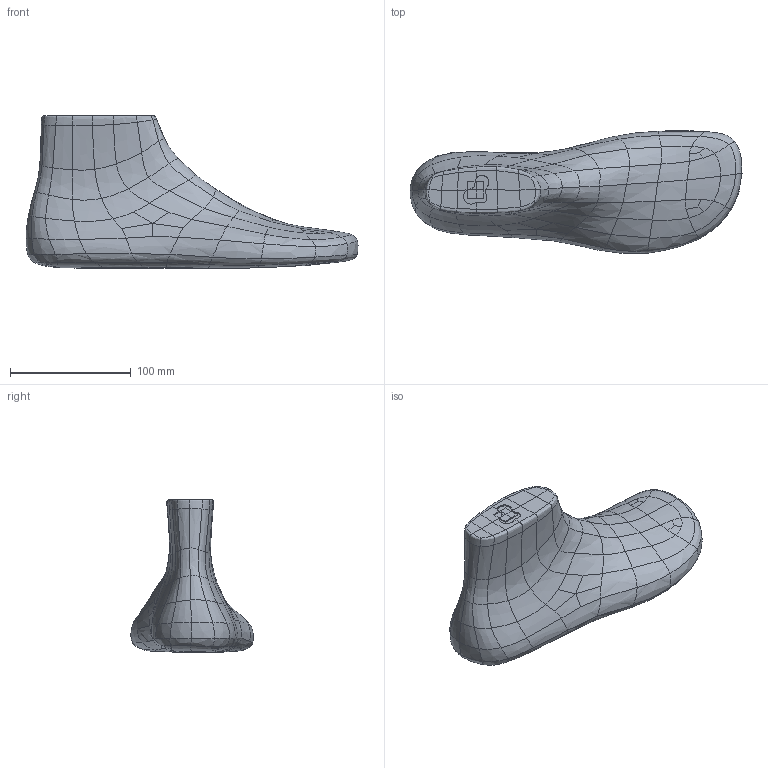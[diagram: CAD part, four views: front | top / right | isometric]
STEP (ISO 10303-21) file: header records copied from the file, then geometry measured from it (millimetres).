
FILE_DESCRIPTION(/* description */ (''),/* implementation_level */ '2;1');
FILE_NAME(License: CC BY-NC-ND 4.0 Statement: This work is licensed under a Creative Commons Attribution-NonCommercial-NoDerivatives 4.0 International License. Link: https://creativecommons.org/licenses/by-nc-nd/4.0/);
FILE_SCHEMA (('CONFIG_CONTROL_DESIGN'));
Length unit declared in the file: millimetre
Products named in the file (1): Document
Bounding box: 275.52 x 101.86 x 126.66 mm (x, y, z)
Volume: 1111616.4 mm3; surface area: 78138.4 mm2
Topology: 1 solids, 1 shells, 235 faces, 496 edges, 264 vertices
Faces by surface type: bspline 211, plane 24
Entity records: 14977 total; most frequent: CARTESIAN_POINT 11653, ORIENTED_EDGE 992, EDGE_CURVE 496, B_SPLINE_CURVE_WITH_KNOTS 496, VERTEX_POINT 264, EDGE_LOOP 236, ADVANCED_FACE 235, FACE_OUTER_BOUND 235
